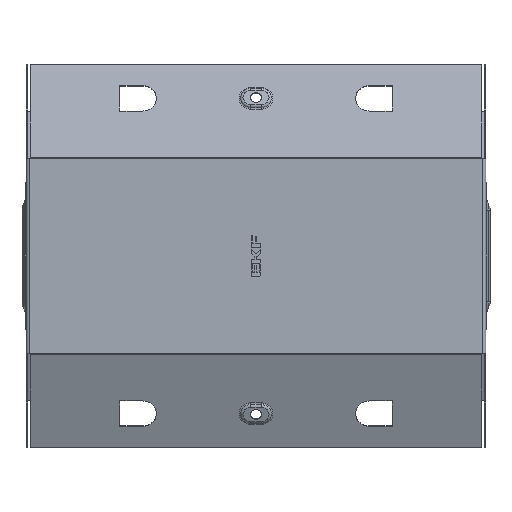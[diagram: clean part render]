
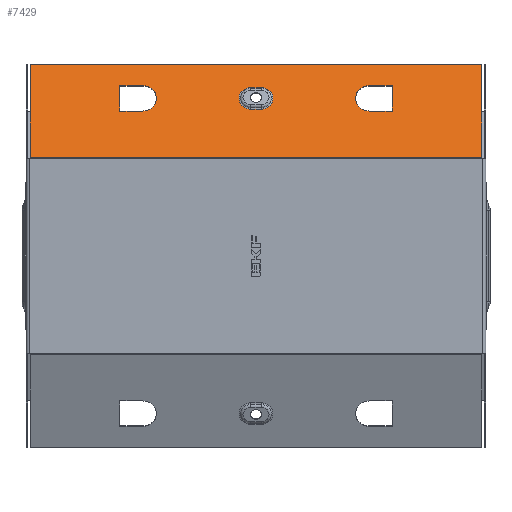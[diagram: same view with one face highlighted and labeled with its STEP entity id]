
A CAD part, front view. The second image highlights one B-rep face of the part: STEP entity #7429.
In plain terms, the highlighted planar face has unit normal (0, -0.924, 0.383).
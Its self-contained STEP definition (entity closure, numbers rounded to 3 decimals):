
#120 = EDGE_CURVE ( 'NONE', #6290, #12071, #10312, .T. ) ;
#230 = ORIENTED_EDGE ( 'NONE', *, *, #739, .T. ) ;
#281 = ORIENTED_EDGE ( 'NONE', *, *, #6925, .T. ) ;
#311 = VECTOR ( 'NONE', #11056, 1000. ) ;
#352 = CARTESIAN_POINT ( 'NONE',  ( 147.299, -80.663, 64.406 ) ) ;
#393 = CARTESIAN_POINT ( 'NONE',  ( 74., -64.697, 102.952 ) ) ;
#523 = CARTESIAN_POINT ( 'NONE',  ( 89., -61.253, 111.267 ) ) ;
#646 = EDGE_CURVE ( 'NONE', #8919, #9478, #5153, .T. ) ;
#650 = CARTESIAN_POINT ( 'NONE',  ( -147.299, -55.512, 125.125 ) ) ;
#682 = DIRECTION ( 'NONE',  ( 0., 0.383, 0.924 ) ) ;
#739 = EDGE_CURVE ( 'NONE', #4284, #9283, #1099, .T. ) ;
#771 = DIRECTION ( 'NONE',  ( -1., 0., 0. ) ) ;
#821 = LINE ( 'NONE', #14172, #14439 ) ;
#1054 = ORIENTED_EDGE ( 'NONE', *, *, #5916, .T. ) ;
#1099 = CIRCLE ( 'NONE', #4248, 9. ) ;
#1251 = ORIENTED_EDGE ( 'NONE', *, *, #646, .T. ) ;
#1268 = CARTESIAN_POINT ( 'NONE',  ( -74., -68.141, 94.637 ) ) ;
#1484 = EDGE_CURVE ( 'NONE', #12071, #14375, #10260, .T. ) ;
#1789 = CARTESIAN_POINT ( 'NONE',  ( 3.5, -67.604, 95.932 ) ) ;
#1802 = VECTOR ( 'NONE', #9077, 1000. ) ;
#1861 = CARTESIAN_POINT ( 'NONE',  ( -3.5, -67.604, 95.932 ) ) ;
#1919 = EDGE_CURVE ( 'NONE', #13629, #10783, #3702, .T. ) ;
#1974 = VECTOR ( 'NONE', #12036, 1000. ) ;
#2155 = EDGE_CURVE ( 'NONE', #11580, #6290, #13436, .T. ) ;
#2170 = VERTEX_POINT ( 'NONE', #1861 ) ;
#2219 = CARTESIAN_POINT ( 'NONE',  ( -147.299, -80.663, 64.406 ) ) ;
#2374 = CARTESIAN_POINT ( 'NONE',  ( -3.5, -61.789, 109.972 ) ) ;
#2412 = ORIENTED_EDGE ( 'NONE', *, *, #1919, .T. ) ;
#2524 = PLANE ( 'NONE',  #14613 ) ;
#2555 = CARTESIAN_POINT ( 'NONE',  ( -89., -61.253, 111.267 ) ) ;
#2644 = DIRECTION ( 'NONE',  ( 0., 0.924, -0.383 ) ) ;
#2735 = CARTESIAN_POINT ( 'NONE',  ( 148.2, -80.8, 64.075 ) ) ;
#2797 = EDGE_CURVE ( 'NONE', #13846, #8919, #3137, .T. ) ;
#3087 = EDGE_CURVE ( 'NONE', #9478, #2170, #10040, .T. ) ;
#3088 = VERTEX_POINT ( 'NONE', #650 ) ;
#3137 = LINE ( 'NONE', #8875, #311 ) ;
#3478 = LINE ( 'NONE', #10770, #9661 ) ;
#3537 = VECTOR ( 'NONE', #6846, 1000. ) ;
#3688 = DIRECTION ( 'NONE',  ( 0., -0.383, -0.924 ) ) ;
#3702 = LINE ( 'NONE', #4165, #3537 ) ;
#4091 = DIRECTION ( 'NONE',  ( 1., 0., 0. ) ) ;
#4165 = CARTESIAN_POINT ( 'NONE',  ( 147.299, -80.864, 63.921 ) ) ;
#4248 = AXIS2_PLACEMENT_3D ( 'NONE', #5742, #4651, #12564 ) ;
#4284 = VERTEX_POINT ( 'NONE', #14555 ) ;
#4544 = EDGE_LOOP ( 'NONE', ( #11992, #1251, #8024, #1054 ) ) ;
#4651 = DIRECTION ( 'NONE',  ( 0., 0.924, -0.383 ) ) ;
#4727 = VECTOR ( 'NONE', #13148, 1000. ) ;
#4850 = EDGE_LOOP ( 'NONE', ( #10549, #8100, #2412, #10313 ) ) ;
#4921 = CIRCLE ( 'NONE', #11091, 7.598 ) ;
#5002 = DIRECTION ( 'NONE',  ( 0., 0.383, 0.924 ) ) ;
#5153 = CIRCLE ( 'NONE', #10386, 7.598 ) ;
#5611 = EDGE_CURVE ( 'NONE', #14375, #11580, #9912, .T. ) ;
#5742 = CARTESIAN_POINT ( 'NONE',  ( -74., -64.697, 102.952 ) ) ;
#5785 = LINE ( 'NONE', #7157, #7367 ) ;
#5916 = EDGE_CURVE ( 'NONE', #2170, #13846, #4921, .T. ) ;
#6020 = DIRECTION ( 'NONE',  ( -1., 0., 0. ) ) ;
#6107 = DIRECTION ( 'NONE',  ( 0., 0.924, -0.383 ) ) ;
#6290 = VERTEX_POINT ( 'NONE', #10633 ) ;
#6344 = VECTOR ( 'NONE', #7240, 1000. ) ;
#6846 = DIRECTION ( 'NONE',  ( 0., 0.383, 0.924 ) ) ;
#6850 = VERTEX_POINT ( 'NONE', #2219 ) ;
#6925 = EDGE_CURVE ( 'NONE', #9283, #10185, #11194, .T. ) ;
#7157 = CARTESIAN_POINT ( 'NONE',  ( -89., -61.253, 111.267 ) ) ;
#7208 = CARTESIAN_POINT ( 'NONE',  ( 74., -68.141, 94.637 ) ) ;
#7240 = DIRECTION ( 'NONE',  ( -1., 0., 0. ) ) ;
#7336 = CARTESIAN_POINT ( 'NONE',  ( -3.5, -64.697, 102.952 ) ) ;
#7367 = VECTOR ( 'NONE', #11604, 1000. ) ;
#7389 = CARTESIAN_POINT ( 'NONE',  ( 147.299, -55.512, 125.125 ) ) ;
#7429 = ADVANCED_FACE ( 'NONE', ( #10106, #12600, #12778, #10289 ), #2524, .F. ) ;
#7633 = EDGE_CURVE ( 'NONE', #3088, #6850, #10461, .T. ) ;
#8016 = CARTESIAN_POINT ( 'NONE',  ( 3.5, -64.697, 102.952 ) ) ;
#8024 = ORIENTED_EDGE ( 'NONE', *, *, #3087, .T. ) ;
#8076 = DIRECTION ( 'NONE',  ( 0., 0.924, -0.383 ) ) ;
#8100 = ORIENTED_EDGE ( 'NONE', *, *, #11740, .F. ) ;
#8142 = VECTOR ( 'NONE', #3688, 1000. ) ;
#8592 = CARTESIAN_POINT ( 'NONE',  ( -147.299, -80.8, 64.075 ) ) ;
#8620 = DIRECTION ( 'NONE',  ( 1., 0., 0. ) ) ;
#8875 = CARTESIAN_POINT ( 'NONE',  ( 3.5, -61.789, 109.972 ) ) ;
#8919 = VERTEX_POINT ( 'NONE', #12332 ) ;
#9077 = DIRECTION ( 'NONE',  ( -1., 0., 0. ) ) ;
#9273 = CARTESIAN_POINT ( 'NONE',  ( -89., -68.141, 94.637 ) ) ;
#9283 = VERTEX_POINT ( 'NONE', #14430 ) ;
#9342 = CARTESIAN_POINT ( 'NONE',  ( 89., -61.253, 111.267 ) ) ;
#9361 = ORIENTED_EDGE ( 'NONE', *, *, #10156, .T. ) ;
#9404 = DIRECTION ( 'NONE',  ( 0., 0.383, 0.924 ) ) ;
#9478 = VERTEX_POINT ( 'NONE', #11275 ) ;
#9507 = ORIENTED_EDGE ( 'NONE', *, *, #2155, .T. ) ;
#9661 = VECTOR ( 'NONE', #8620, 1000. ) ;
#9766 = CARTESIAN_POINT ( 'NONE',  ( 148.2, -55.512, 125.125 ) ) ;
#9912 = LINE ( 'NONE', #13007, #13894 ) ;
#10040 = LINE ( 'NONE', #1789, #6344 ) ;
#10106 = FACE_BOUND ( 'NONE', #12444, .T. ) ;
#10156 = EDGE_CURVE ( 'NONE', #10185, #11550, #5785, .T. ) ;
#10185 = VERTEX_POINT ( 'NONE', #9273 ) ;
#10260 = LINE ( 'NONE', #523, #8142 ) ;
#10275 = EDGE_LOOP ( 'NONE', ( #9361, #12049, #230, #281 ) ) ;
#10289 = FACE_OUTER_BOUND ( 'NONE', #4850, .T. ) ;
#10312 = LINE ( 'NONE', #10863, #12620 ) ;
#10313 = ORIENTED_EDGE ( 'NONE', *, *, #10403, .T. ) ;
#10386 = AXIS2_PLACEMENT_3D ( 'NONE', #8016, #8076, #682 ) ;
#10403 = EDGE_CURVE ( 'NONE', #10783, #3088, #12897, .T. ) ;
#10461 = LINE ( 'NONE', #8592, #1974 ) ;
#10498 = CARTESIAN_POINT ( 'NONE',  ( 89., -68.141, 94.637 ) ) ;
#10549 = ORIENTED_EDGE ( 'NONE', *, *, #7633, .T. ) ;
#10633 = CARTESIAN_POINT ( 'NONE',  ( 74., -61.253, 111.267 ) ) ;
#10770 = CARTESIAN_POINT ( 'NONE',  ( -74., -61.253, 111.267 ) ) ;
#10783 = VERTEX_POINT ( 'NONE', #7389 ) ;
#10863 = CARTESIAN_POINT ( 'NONE',  ( 74., -61.253, 111.267 ) ) ;
#10918 = ORIENTED_EDGE ( 'NONE', *, *, #1484, .T. ) ;
#11056 = DIRECTION ( 'NONE',  ( 1., 0., 0. ) ) ;
#11091 = AXIS2_PLACEMENT_3D ( 'NONE', #7336, #2644, #5002 ) ;
#11194 = LINE ( 'NONE', #1268, #1802 ) ;
#11275 = CARTESIAN_POINT ( 'NONE',  ( 3.5, -67.604, 95.932 ) ) ;
#11550 = VERTEX_POINT ( 'NONE', #2555 ) ;
#11580 = VERTEX_POINT ( 'NONE', #7208 ) ;
#11604 = DIRECTION ( 'NONE',  ( 0., 0.383, 0.924 ) ) ;
#11714 = EDGE_CURVE ( 'NONE', #11550, #4284, #3478, .T. ) ;
#11740 = EDGE_CURVE ( 'NONE', #13629, #6850, #821, .T. ) ;
#11992 = ORIENTED_EDGE ( 'NONE', *, *, #2797, .T. ) ;
#12036 = DIRECTION ( 'NONE',  ( 0., -0.383, -0.924 ) ) ;
#12049 = ORIENTED_EDGE ( 'NONE', *, *, #11714, .T. ) ;
#12071 = VERTEX_POINT ( 'NONE', #9342 ) ;
#12186 = AXIS2_PLACEMENT_3D ( 'NONE', #393, #13895, #9404 ) ;
#12332 = CARTESIAN_POINT ( 'NONE',  ( 3.5, -61.789, 109.972 ) ) ;
#12444 = EDGE_LOOP ( 'NONE', ( #12642, #9507, #12460, #10918 ) ) ;
#12460 = ORIENTED_EDGE ( 'NONE', *, *, #120, .T. ) ;
#12564 = DIRECTION ( 'NONE',  ( 0., -0.383, -0.924 ) ) ;
#12600 = FACE_BOUND ( 'NONE', #10275, .T. ) ;
#12620 = VECTOR ( 'NONE', #4091, 1000. ) ;
#12642 = ORIENTED_EDGE ( 'NONE', *, *, #5611, .T. ) ;
#12778 = FACE_BOUND ( 'NONE', #4544, .T. ) ;
#12835 = DIRECTION ( 'NONE',  ( 0., 0.383, 0.924 ) ) ;
#12897 = LINE ( 'NONE', #9766, #4727 ) ;
#13007 = CARTESIAN_POINT ( 'NONE',  ( 74., -68.141, 94.637 ) ) ;
#13148 = DIRECTION ( 'NONE',  ( -1., 0., 0. ) ) ;
#13436 = CIRCLE ( 'NONE', #12186, 9. ) ;
#13629 = VERTEX_POINT ( 'NONE', #352 ) ;
#13846 = VERTEX_POINT ( 'NONE', #2374 ) ;
#13894 = VECTOR ( 'NONE', #6020, 1000. ) ;
#13895 = DIRECTION ( 'NONE',  ( 0., 0.924, -0.383 ) ) ;
#14172 = CARTESIAN_POINT ( 'NONE',  ( 148.2, -80.663, 64.406 ) ) ;
#14375 = VERTEX_POINT ( 'NONE', #10498 ) ;
#14430 = CARTESIAN_POINT ( 'NONE',  ( -74., -68.141, 94.637 ) ) ;
#14439 = VECTOR ( 'NONE', #771, 1000. ) ;
#14555 = CARTESIAN_POINT ( 'NONE',  ( -74., -61.253, 111.267 ) ) ;
#14613 = AXIS2_PLACEMENT_3D ( 'NONE', #2735, #6107, #12835 ) ;
